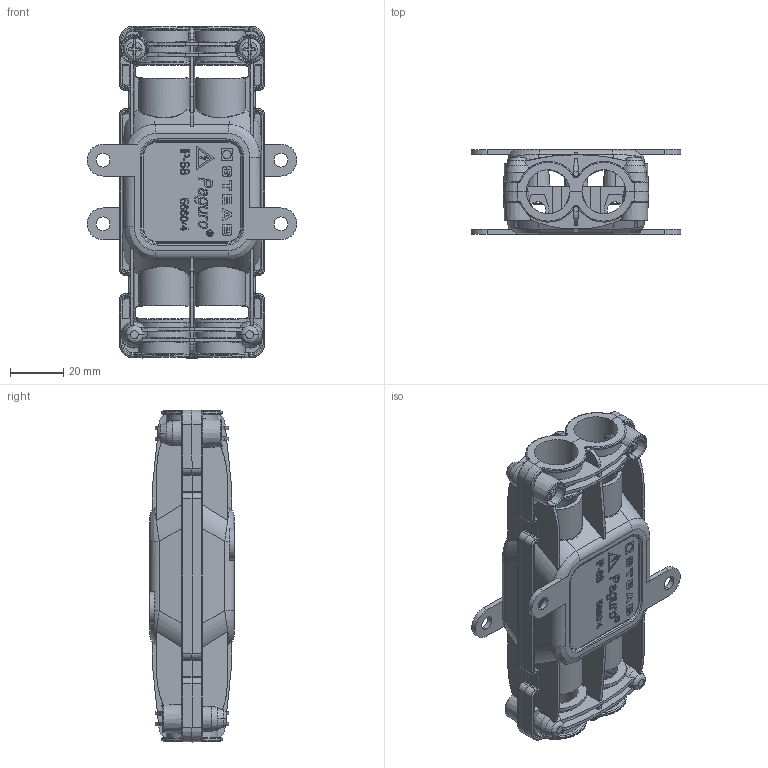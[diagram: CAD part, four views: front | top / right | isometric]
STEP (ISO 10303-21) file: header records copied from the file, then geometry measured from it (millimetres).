
FILE_DESCRIPTION((''),'2;1');
FILE_NAME('5660_4-CAT_ASM','2013-06-07T',('cad10'),(''),'PRO/ENGINEER BY PARAMETRIC TECHNOLOGY CORPORATION, 2010180','PRO/ENGINEER BY PARAMETRIC TECHNOLOGY CORPORATION, 2010180','');
FILE_SCHEMA(('CONFIG_CONTROL_DESIGN'));
Products named in the file (1): 5660_4-CAT_ASM
Bounding box: 79 x 32 x 125 mm (x, y, z)
Volume: 55958.5 mm3; surface area: 64002.5 mm2
Topology: 5 solids, 5 shells, 3041 faces, 8322 edges, 5398 vertices
Faces by surface type: plane 2043, cylinder 470, cone 196, bspline 168, torus 164
Entity records: 111669 total; most frequent: CARTESIAN_POINT 36735, ORIENTED_EDGE 16628, DIRECTION 13940, EDGE_CURVE 8314, VECTOR 5932, LINE 5932, VERTEX_POINT 5398, AXIS2_PLACEMENT_3D 4004
